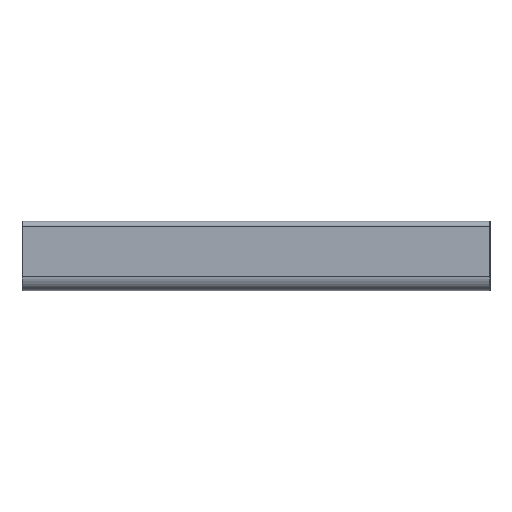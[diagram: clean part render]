
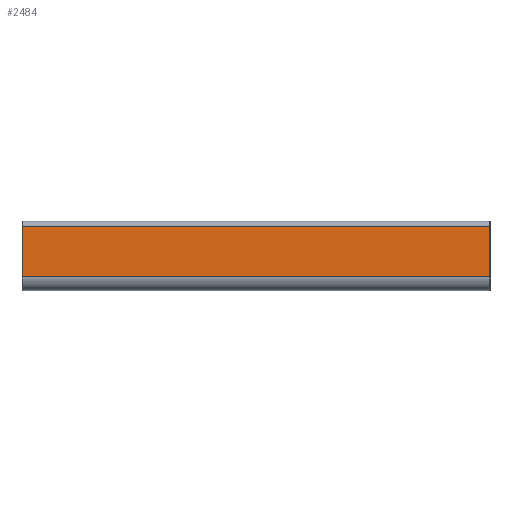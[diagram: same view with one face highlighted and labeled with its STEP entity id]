
A CAD part, top view. The second image highlights one B-rep face of the part: STEP entity #2484.
In plain terms, the highlighted planar face has unit normal (0, 0, 1).
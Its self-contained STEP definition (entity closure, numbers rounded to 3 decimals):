
#1119 = PLANE('',#1120);
#1120 = AXIS2_PLACEMENT_3D('',#1121,#1122,#1123);
#1121 = CARTESIAN_POINT('',(-116.4,-25.5,1.9));
#1122 = DIRECTION('',(0.707,0.,-0.707)
  );
#1123 = DIRECTION('',(0.,-1.,0.));
#1434 = PLANE('',#1435);
#1435 = AXIS2_PLACEMENT_3D('',#1436,#1437,#1438);
#1436 = CARTESIAN_POINT('',(116.4,-25.5,1.9));
#1437 = DIRECTION('',(0.707,0.,0.707));
#1438 = DIRECTION('',(0.,-1.,0.));
#1568 = CYLINDRICAL_SURFACE('',#1569,2.5);
#1569 = AXIS2_PLACEMENT_3D('',#1570,#1571,#1572);
#1570 = CARTESIAN_POINT('',(-116.5,-0.5,-0.5));
#1571 = DIRECTION('',(-1.,-0.,0.));
#1572 = DIRECTION('',(0.,1.,0.));
#1783 = VERTEX_POINT('',#1784);
#1784 = CARTESIAN_POINT('',(-116.3,-25.5,2.));
#1799 = CYLINDRICAL_SURFACE('',#1800,7.);
#1800 = AXIS2_PLACEMENT_3D('',#1801,#1802,#1803);
#1801 = CARTESIAN_POINT('',(-116.5,-25.5,-5.));
#1802 = DIRECTION('',(-1.,0.,0.));
#1803 = DIRECTION('',(0.,0.,1.));
#1893 = EDGE_CURVE('',#1783,#1894,#1896,.T.);
#1894 = VERTEX_POINT('',#1895);
#1895 = CARTESIAN_POINT('',(-116.3,-0.5,2.));
#1896 = SURFACE_CURVE('',#1897,(#1901,#1908),.PCURVE_S1.);
#1897 = LINE('',#1898,#1899);
#1898 = CARTESIAN_POINT('',(-116.3,-25.5,2.));
#1899 = VECTOR('',#1900,1.);
#1900 = DIRECTION('',(0.,1.,0.));
#1901 = PCURVE('',#1119,#1902);
#1902 = DEFINITIONAL_REPRESENTATION('',(#1903),#1907);
#1903 = LINE('',#1904,#1905);
#1904 = CARTESIAN_POINT('',(-0.,-0.141));
#1905 = VECTOR('',#1906,1.);
#1906 = DIRECTION('',(-1.,0.));
#1907 = ( GEOMETRIC_REPRESENTATION_CONTEXT(2) 
PARAMETRIC_REPRESENTATION_CONTEXT() REPRESENTATION_CONTEXT('2D SPACE',''
  ) );
#1908 = PCURVE('',#1909,#1914);
#1909 = PLANE('',#1910);
#1910 = AXIS2_PLACEMENT_3D('',#1911,#1912,#1913);
#1911 = CARTESIAN_POINT('',(-116.5,-25.5,2.));
#1912 = DIRECTION('',(0.,0.,1.));
#1913 = DIRECTION('',(0.,1.,0.));
#1914 = DEFINITIONAL_REPRESENTATION('',(#1915),#1919);
#1915 = LINE('',#1916,#1917);
#1916 = CARTESIAN_POINT('',(0.,-0.2));
#1917 = VECTOR('',#1918,1.);
#1918 = DIRECTION('',(1.,0.));
#1919 = ( GEOMETRIC_REPRESENTATION_CONTEXT(2) 
PARAMETRIC_REPRESENTATION_CONTEXT() REPRESENTATION_CONTEXT('2D SPACE',''
  ) );
#2103 = VERTEX_POINT('',#2104);
#2104 = CARTESIAN_POINT('',(116.3,-25.5,2.));
#2203 = EDGE_CURVE('',#2103,#2204,#2206,.T.);
#2204 = VERTEX_POINT('',#2205);
#2205 = CARTESIAN_POINT('',(116.3,-0.5,2.));
#2206 = SURFACE_CURVE('',#2207,(#2211,#2218),.PCURVE_S1.);
#2207 = LINE('',#2208,#2209);
#2208 = CARTESIAN_POINT('',(116.3,-25.5,2.));
#2209 = VECTOR('',#2210,1.);
#2210 = DIRECTION('',(0.,1.,0.));
#2211 = PCURVE('',#1434,#2212);
#2212 = DEFINITIONAL_REPRESENTATION('',(#2213),#2217);
#2213 = LINE('',#2214,#2215);
#2214 = CARTESIAN_POINT('',(-0.,-0.141));
#2215 = VECTOR('',#2216,1.);
#2216 = DIRECTION('',(-1.,0.));
#2217 = ( GEOMETRIC_REPRESENTATION_CONTEXT(2) 
PARAMETRIC_REPRESENTATION_CONTEXT() REPRESENTATION_CONTEXT('2D SPACE',''
  ) );
#2218 = PCURVE('',#1909,#2219);
#2219 = DEFINITIONAL_REPRESENTATION('',(#2220),#2224);
#2220 = LINE('',#2221,#2222);
#2221 = CARTESIAN_POINT('',(0.,-232.8));
#2222 = VECTOR('',#2223,1.);
#2223 = DIRECTION('',(1.,0.));
#2224 = ( GEOMETRIC_REPRESENTATION_CONTEXT(2) 
PARAMETRIC_REPRESENTATION_CONTEXT() REPRESENTATION_CONTEXT('2D SPACE',''
  ) );
#2409 = EDGE_CURVE('',#1894,#2204,#2410,.T.);
#2410 = SURFACE_CURVE('',#2411,(#2415,#2422),.PCURVE_S1.);
#2411 = LINE('',#2412,#2413);
#2412 = CARTESIAN_POINT('',(-116.5,-0.5,2.));
#2413 = VECTOR('',#2414,1.);
#2414 = DIRECTION('',(1.,0.,0.));
#2415 = PCURVE('',#1568,#2416);
#2416 = DEFINITIONAL_REPRESENTATION('',(#2417),#2421);
#2417 = LINE('',#2418,#2419);
#2418 = CARTESIAN_POINT('',(-1.571,0.));
#2419 = VECTOR('',#2420,1.);
#2420 = DIRECTION('',(-0.,-1.));
#2421 = ( GEOMETRIC_REPRESENTATION_CONTEXT(2) 
PARAMETRIC_REPRESENTATION_CONTEXT() REPRESENTATION_CONTEXT('2D SPACE',''
  ) );
#2422 = PCURVE('',#1909,#2423);
#2423 = DEFINITIONAL_REPRESENTATION('',(#2424),#2428);
#2424 = LINE('',#2425,#2426);
#2425 = CARTESIAN_POINT('',(25.,0.));
#2426 = VECTOR('',#2427,1.);
#2427 = DIRECTION('',(0.,-1.));
#2428 = ( GEOMETRIC_REPRESENTATION_CONTEXT(2) 
PARAMETRIC_REPRESENTATION_CONTEXT() REPRESENTATION_CONTEXT('2D SPACE',''
  ) );
#2434 = EDGE_CURVE('',#1783,#2103,#2435,.T.);
#2435 = SURFACE_CURVE('',#2436,(#2440,#2447),.PCURVE_S1.);
#2436 = LINE('',#2437,#2438);
#2437 = CARTESIAN_POINT('',(-116.5,-25.5,2.));
#2438 = VECTOR('',#2439,1.);
#2439 = DIRECTION('',(1.,0.,0.));
#2440 = PCURVE('',#1799,#2441);
#2441 = DEFINITIONAL_REPRESENTATION('',(#2442),#2446);
#2442 = LINE('',#2443,#2444);
#2443 = CARTESIAN_POINT('',(-0.,0.));
#2444 = VECTOR('',#2445,1.);
#2445 = DIRECTION('',(-0.,-1.));
#2446 = ( GEOMETRIC_REPRESENTATION_CONTEXT(2) 
PARAMETRIC_REPRESENTATION_CONTEXT() REPRESENTATION_CONTEXT('2D SPACE',''
  ) );
#2447 = PCURVE('',#1909,#2448);
#2448 = DEFINITIONAL_REPRESENTATION('',(#2449),#2453);
#2449 = LINE('',#2450,#2451);
#2450 = CARTESIAN_POINT('',(0.,0.));
#2451 = VECTOR('',#2452,1.);
#2452 = DIRECTION('',(0.,-1.));
#2453 = ( GEOMETRIC_REPRESENTATION_CONTEXT(2) 
PARAMETRIC_REPRESENTATION_CONTEXT() REPRESENTATION_CONTEXT('2D SPACE',''
  ) );
#2484 = ADVANCED_FACE('',(#2485),#1909,.T.);
#2485 = FACE_BOUND('',#2486,.T.);
#2486 = EDGE_LOOP('',(#2487,#2488,#2489,#2490));
#2487 = ORIENTED_EDGE('',*,*,#2434,.T.);
#2488 = ORIENTED_EDGE('',*,*,#2203,.T.);
#2489 = ORIENTED_EDGE('',*,*,#2409,.F.);
#2490 = ORIENTED_EDGE('',*,*,#1893,.F.);
